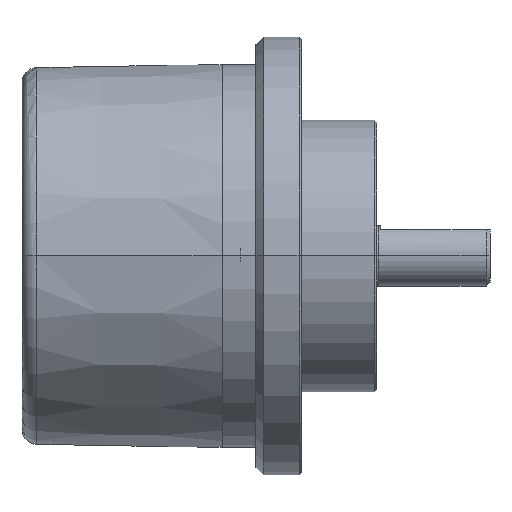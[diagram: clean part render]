
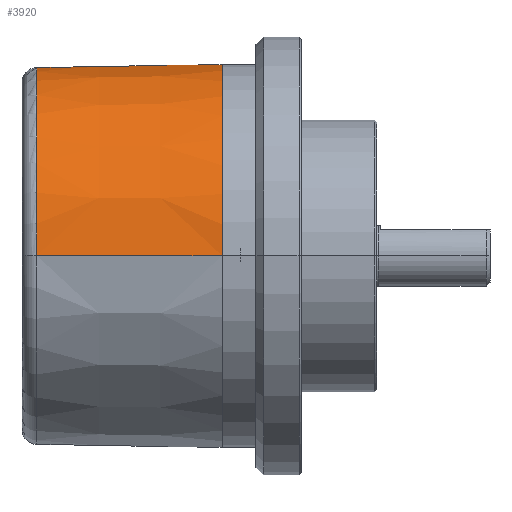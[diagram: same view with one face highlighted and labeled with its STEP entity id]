
A CAD part, top view. The second image highlights one B-rep face of the part: STEP entity #3920.
In plain terms, the highlighted conical face has half-angle 1 degrees and reference radius 25.4 mm.
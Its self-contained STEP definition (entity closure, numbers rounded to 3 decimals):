
#3914 = VERTEX_POINT ( 'NONE', #6633 ) ;
#3915 = ORIENTED_EDGE ( 'NONE', *, *, #3918, .T. ) ;
#3916 = ORIENTED_EDGE ( 'NONE', *, *, #3917, .T. ) ;
#3917 = EDGE_CURVE ( 'NONE', #3936, #3914, #6694, .T. ) ;
#3918 = EDGE_CURVE ( 'NONE', #3914, #3919, #6684, .T. ) ;
#3919 = VERTEX_POINT ( 'NONE', #6683 ) ;
#3920 = ADVANCED_FACE ( 'NONE', ( #6693 ), #6681, .T. ) ;
#3924 = EDGE_LOOP ( 'NONE', ( #3943, #3930, #3935, #3916, #3915, #4045 ) ) ;
#3928 = EDGE_CURVE ( 'NONE', #3934, #3936, #6702, .T. ) ;
#3930 = ORIENTED_EDGE ( 'NONE', *, *, #3931, .T. ) ;
#3931 = EDGE_CURVE ( 'NONE', #3937, #3934, #6757, .T. ) ;
#3934 = VERTEX_POINT ( 'NONE', #6748 ) ;
#3935 = ORIENTED_EDGE ( 'NONE', *, *, #3928, .T. ) ;
#3936 = VERTEX_POINT ( 'NONE', #6747 ) ;
#3937 = VERTEX_POINT ( 'NONE', #6746 ) ;
#3938 = EDGE_CURVE ( 'NONE', #3939, #3937, #6744, .T. ) ;
#3939 = VERTEX_POINT ( 'NONE', #6745 ) ;
#3943 = ORIENTED_EDGE ( 'NONE', *, *, #3938, .T. ) ;
#4045 = ORIENTED_EDGE ( 'NONE', *, *, #4046, .T. ) ;
#4046 = EDGE_CURVE ( 'NONE', #3919, #3939, #6923, .T. ) ;
#6633 = CARTESIAN_POINT ( 'NONE',  ( 3.552, 16.781, -19.022 ) ) ;
#6672 = DIRECTION ( 'NONE',  ( 0., 0., 1. ) ) ;
#6673 = DIRECTION ( 'NONE',  ( 1., 0., 0. ) ) ;
#6674 = CARTESIAN_POINT ( 'NONE',  ( 5.5, 0., 0. ) ) ;
#6675 = AXIS2_PLACEMENT_3D ( 'NONE', #6674, #6673, #6672 ) ;
#6677 = CARTESIAN_POINT ( 'NONE',  ( -18.948, 17.138, -18.165 ) ) ;
#6678 = CARTESIAN_POINT ( 'NONE',  ( -11.448, 17.014, -18.462 ) ) ;
#6679 = CARTESIAN_POINT ( 'NONE',  ( -3.948, 16.895, -18.747 ) ) ;
#6680 = CARTESIAN_POINT ( 'NONE',  ( 3.552, 16.781, -19.022 ) ) ;
#6681 = CONICAL_SURFACE ( 'NONE', #6675, 25.4, 0.017 ) ;
#6683 = CARTESIAN_POINT ( 'NONE',  ( -18.948, 17.138, -18.165 ) ) ;
#6684 = B_SPLINE_CURVE_WITH_KNOTS ( 'NONE', 3,
 ( #6680, #6679, #6678, #6677 ),
 .UNSPECIFIED., .F., .F.,
 ( 4, 4 ),
 ( 0., 0.023 ),
 .UNSPECIFIED. ) ;
#6685 = CARTESIAN_POINT ( 'NONE',  ( 3.552, 16.781, -19.022 ) ) ;
#6686 = CARTESIAN_POINT ( 'NONE',  ( 3.921, 16.775, -19.036 ) ) ;
#6687 = CARTESIAN_POINT ( 'NONE',  ( 4.279, 16.699, -19.111 ) ) ;
#6688 = CARTESIAN_POINT ( 'NONE',  ( 4.767, 16.519, -19.278 ) ) ;
#6689 = CARTESIAN_POINT ( 'NONE',  ( 4.924, 16.447, -19.343 ) ) ;
#6690 = CARTESIAN_POINT ( 'NONE',  ( 5.222, 16.288, -19.484 ) ) ;
#6691 = CARTESIAN_POINT ( 'NONE',  ( 5.364, 16.2, -19.56 ) ) ;
#6692 = CARTESIAN_POINT ( 'NONE',  ( 5.5, 16.106, -19.64 ) ) ;
#6693 = FACE_OUTER_BOUND ( 'NONE', #3924, .T. ) ;
#6694 = B_SPLINE_CURVE_WITH_KNOTS ( 'NONE', 3,
 ( #6692, #6691, #6690, #6689, #6688, #6687, #6686, #6685 ),
 .UNSPECIFIED., .F., .F.,
 ( 4, 2, 2, 4 ),
 ( 0., 0.001, 0.001, 0.002 ),
 .UNSPECIFIED. ) ;
#6699 = DIRECTION ( 'NONE',  ( 0., 0., -1. ) ) ;
#6700 = DIRECTION ( 'NONE',  ( -1., 0., 0. ) ) ;
#6701 = AXIS2_PLACEMENT_3D ( 'NONE', #6723, #6700, #6699 ) ;
#6702 = CIRCLE ( 'NONE', #6701, 25.4 ) ;
#6723 = CARTESIAN_POINT ( 'NONE',  ( 5.5, 0., 0. ) ) ;
#6740 = DIRECTION ( 'NONE',  ( 0., 0., -1. ) ) ;
#6741 = DIRECTION ( 'NONE',  ( 1., 0., 0. ) ) ;
#6742 = CARTESIAN_POINT ( 'NONE',  ( -19.035, 0., 0. ) ) ;
#6743 = AXIS2_PLACEMENT_3D ( 'NONE', #6742, #6741, #6740 ) ;
#6744 = CIRCLE ( 'NONE', #6743, 24.972 ) ;
#6745 = CARTESIAN_POINT ( 'NONE',  ( -19.035, 17.138, -18.162 ) ) ;
#6746 = CARTESIAN_POINT ( 'NONE',  ( -19.035, 0., 24.972 ) ) ;
#6747 = CARTESIAN_POINT ( 'NONE',  ( 5.5, 16.106, -19.64 ) ) ;
#6748 = CARTESIAN_POINT ( 'NONE',  ( 5.5, 0., 25.4 ) ) ;
#6754 = DIRECTION ( 'NONE',  ( 1., 0., 0.017 ) ) ;
#6755 = VECTOR ( 'NONE', #6754, 1000. ) ;
#6756 = CARTESIAN_POINT ( 'NONE',  ( 5.5, 0., 25.4 ) ) ;
#6757 = LINE ( 'NONE', #6756, #6755 ) ;
#6923 = B_SPLINE_CURVE_WITH_KNOTS ( 'NONE', 3,
 ( #6964, #6963, #6962, #6961 ),
 .UNSPECIFIED., .F., .F.,
 ( 4, 4 ),
 ( 0., 0. ),
 .UNSPECIFIED. ) ;
#6961 = CARTESIAN_POINT ( 'NONE',  ( -19.035, 17.138, -18.162 ) ) ;
#6962 = CARTESIAN_POINT ( 'NONE',  ( -19.006, 17.139, -18.163 ) ) ;
#6963 = CARTESIAN_POINT ( 'NONE',  ( -18.977, 17.139, -18.163 ) ) ;
#6964 = CARTESIAN_POINT ( 'NONE',  ( -18.948, 17.138, -18.165 ) ) ;
